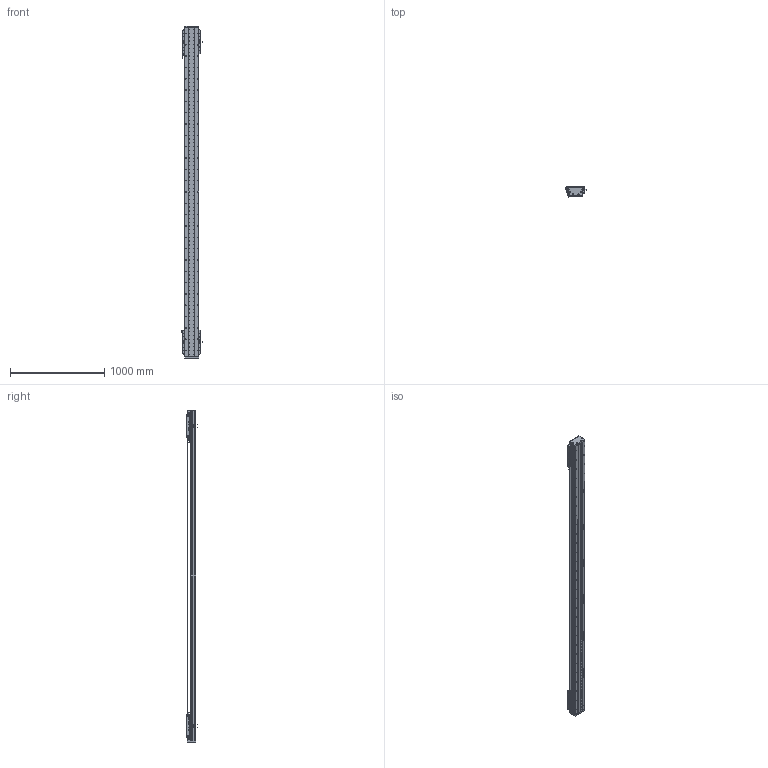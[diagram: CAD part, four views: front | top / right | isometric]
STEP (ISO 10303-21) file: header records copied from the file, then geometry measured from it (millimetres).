
FILE_DESCRIPTION (( 'STEP AP203' ), '1' );
FILE_NAME ('DA-C145-2-C3-T2900-C010-0.2 眻盄萇儂.STEP', '2025-08-14T00:38:32', ( '' ), ( '' ), 'SwSTEP 2.0', 'SolidWorks 2019', '' );
FILE_SCHEMA (( 'CONFIG_CONTROL_DESIGN' ));
Length unit declared in the file: millimetre
Products named in the file (38): DKW-KGZ-ZJ-00 中间光电开关支架; 复件 DA146 钢带垫块^复件 CU145 钢带组件_DA-C145-2-C3-T-C010-0.2; 葩璃 XD-U-02L 棠掑喜^DA-C145-2-C3-T-C010-0.2; 葩璃 DA95-GT-T-00^IU-CU145-L 菁釱絳寢; 葩璃 CKM03-W060-C1C2-TP-0.2^DA-C145-2-C3-T-C010-0.2; 葩璃 DA95-HXJ-00 遣喳砎蝶^DA-C145-2-C3-T-C010-0.2; CU145-W-00 珨极趙賑雄怢啣; 葩璃 DMA-010-0.2 黍杅芛^DA-C145-2-C3-T-C010-0.2; TAY01-M8; 复件 DA145-GYP-00 光电感应片^DA-C145-2-C3-T-C010-0.2; 复件 半圆头内六角螺钉 M3×6^CU145-W 滚珠滑台; 复件 DA95-MFP-01 密封片^CU145-W 滚珠滑台; 葩璃 PM-Y65^DA-C145-2-C3-T-C010-0.2; 复件 DA146 钢带拉块^复件 CU145 钢带组件_DA-C145-2-C3-T-C010-0.2; CU145-W-00 珨极趙賑雄怢啣-1; 葩璃 DA145-C3-DP-A-00 菜えA^CU145-W 幗紩賑怢; DA-C145-2-C3-T2900-C010-0.2 眻盄萇儂; CU145-W 幗紩賑怢-1; DKW-GYP-ZJ-00 笢潔嫖萇覜茼え; IU-CU145-L 菁釱絳寢; IU-CU145-L-00 菁釱(L3480); 复件 内六角平端紧定螺钉 GB.T77-2000 M5×10^CU145-W 滚珠滑台; DKW168-HXJ-ZJ-00 笢潔滅袉砎蝶; CU145-W 幗紩賑怢; 复件 DA145-C3-DK-00 挡块^CU145-W 滚珠滑台; 葩璃 鞠褒情蹟譫 M3^DA-C145-2-C3-T-C010-0.2; 葩璃 CKMA01-W060-TRL^DA-C145-2-C3-T-C010-0.2; 复件 DA145 钢带^复件 CU145 钢带组件_DA-C145-2-C3-T-C010-0.2; 复件 DA145-C3-YB-B-00 压板B^CU145-W 滚珠滑台; 复件 DA95-HK-GT-00 滑块钢轨^CU145-W-00 一体化滑动台板; 复件 纯铜油杯 6x6mm^CU145-W 滚珠滑台; 葩璃 DA145-C3-DP-B-00 菜えB^CU145-W 幗紩賑怢; 复件 DA95-DB-00  挡板^CU145-W 滚珠滑台; 66245-CU145-HT-W-00 賑雄怢啣(3D芞祧)(00); 复件 DA145-C3-YB-A-00 压板A^CU145-W 滚珠滑台; 葩璃 CU145 詩湍郪璃^DA-C145-2-C3-T-C010-0.2; 复件 DA145-DG 钢带端盖^复件 CU145 钢带组件_DA-C145-2-C3-T-C010-0.2; 葩璃 PM-T45^DA-C145-2-C3-T-C010-0.2
Assembly tree (180 placements, depth 4):
  DA-C145-2-C3-T2900-C010-0.2 眻盄萇儂
    IU-CU145-L 菁釱絳寢
      IU-CU145-L-00 菁釱(L3480)
      葩璃 DA95-GT-T-00^IU-CU145-L 菁釱絳寢  x4
    葩璃 CU145 詩湍郪璃^DA-C145-2-C3-T-C010-0.2
      复件 DA145-DG 钢带端盖^复件 CU145 钢带组件_DA-C145-2-C3-T-C010-0.2  x2
      复件 DA146 钢带拉块^复件 CU145 钢带组件_DA-C145-2-C3-T-C010-0.2  x2
      复件 DA146 钢带垫块^复件 CU145 钢带组件_DA-C145-2-C3-T-C010-0.2  x2
      复件 DA145 钢带^复件 CU145 钢带组件_DA-C145-2-C3-T-C010-0.2
    CU145-W 幗紩賑怢
      CU145-W-00 珨极趙賑雄怢啣
        66245-CU145-HT-W-00 賑雄怢啣(3D芞祧)(00)
        复件 DA95-HK-GT-00 滑块钢轨^CU145-W-00 一体化滑动台板  x8
      复件 DA95-MFP-01 密封片^CU145-W 滚珠滑台  x8
      复件 DA95-DB-00  挡板^CU145-W 滚珠滑台  x8
      复件 内六角平端紧定螺钉 GB.T77-2000 M5×10^CU145-W 滚珠滑台  x4
      复件 纯铜油杯 6x6mm^CU145-W 滚珠滑台  x4
      复件 半圆头内六角螺钉 M3×6^CU145-W 滚珠滑台  x16
      复件 DA145-C3-DK-00 挡块^CU145-W 滚珠滑台  x4
      葩璃 DA145-C3-DP-B-00 菜えB^CU145-W 幗紩賑怢  x2
      复件 DA145-C3-YB-B-00 压板B^CU145-W 滚珠滑台  x2
      葩璃 DA145-C3-DP-A-00 菜えA^CU145-W 幗紩賑怢  x3
      复件 DA145-C3-YB-A-00 压板A^CU145-W 滚珠滑台  x3
      TAY01-M8  x4
    CU145-W 幗紩賑怢-1
      CU145-W-00 珨极趙賑雄怢啣-1
        66245-CU145-HT-W-00 賑雄怢啣(3D芞祧)(00)
        复件 DA95-HK-GT-00 滑块钢轨^CU145-W-00 一体化滑动台板  x8
      复件 DA95-MFP-01 密封片^CU145-W 滚珠滑台  x8
      复件 DA95-DB-00  挡板^CU145-W 滚珠滑台  x8
      复件 内六角平端紧定螺钉 GB.T77-2000 M5×10^CU145-W 滚珠滑台  x4
      复件 纯铜油杯 6x6mm^CU145-W 滚珠滑台  x4
      复件 半圆头内六角螺钉 M3×6^CU145-W 滚珠滑台  x16
      复件 DA145-C3-DK-00 挡块^CU145-W 滚珠滑台  x4
      葩璃 DA145-C3-DP-B-00 菜えB^CU145-W 幗紩賑怢  x2
      复件 DA145-C3-YB-B-00 压板B^CU145-W 滚珠滑台  x2
      葩璃 DA145-C3-DP-A-00 菜えA^CU145-W 幗紩賑怢  x3
      复件 DA145-C3-YB-A-00 压板A^CU145-W 滚珠滑台  x3
      TAY01-M8  x4
    葩璃 CKMA01-W060-TRL^DA-C145-2-C3-T-C010-0.2
    葩璃 PM-T45^DA-C145-2-C3-T-C010-0.2  x4
    葩璃 XD-U-02L 棠掑喜^DA-C145-2-C3-T-C010-0.2
    葩璃 DA95-HXJ-00 遣喳砎蝶^DA-C145-2-C3-T-C010-0.2  x4
    葩璃 CKM03-W060-C1C2-TP-0.2^DA-C145-2-C3-T-C010-0.2  x2
    葩璃 DMA-010-0.2 黍杅芛^DA-C145-2-C3-T-C010-0.2  x2
    复件 DA145-GYP-00 光电感应片^DA-C145-2-C3-T-C010-0.2  x2
    DKW-GYP-ZJ-00 笢潔嫖萇覜茼え
    DKW-KGZ-ZJ-00 中间光电开关支架
    葩璃 PM-Y65^DA-C145-2-C3-T-C010-0.2
    葩璃 鞠褒情蹟譫 M3^DA-C145-2-C3-T-C010-0.2  x8
    DKW168-HXJ-ZJ-00 笢潔滅袉砎蝶
Bounding box: 213.7 x 108.45 x 3516 mm (x, y, z)
Volume: 17723015.6 mm3; surface area: 5770250.6 mm2
Topology: 175 solids, 239 shells, 7918 faces, 21957 edges, 13657 vertices
Faces by surface type: cylinder 3613, plane 2965, cone 1184, torus 140, sphere 8, bspline 8
Entity records: 161772 total; most frequent: CARTESIAN_POINT 49256, ORIENTED_EDGE 22600, DIRECTION 21045, EDGE_CURVE 11300, AXIS2_PLACEMENT_3D 7781, VERTEX_POINT 7356, LINE 5483, VECTOR 5483
